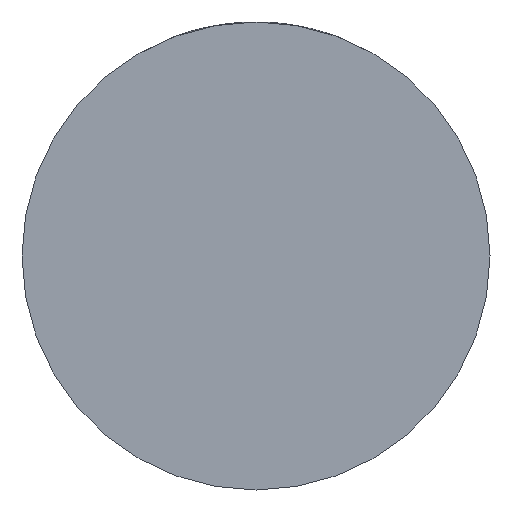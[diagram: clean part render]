
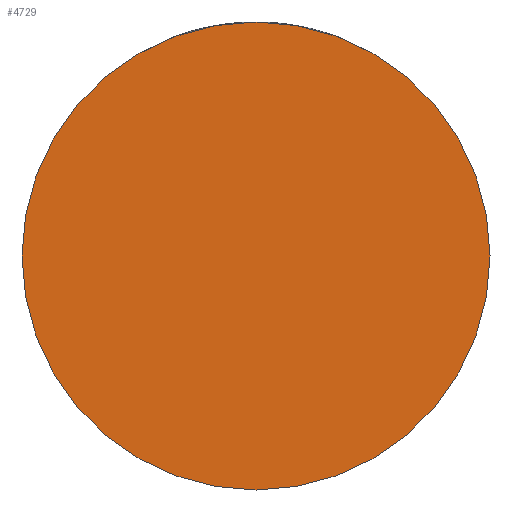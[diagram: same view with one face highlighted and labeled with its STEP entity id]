
A CAD part, front view. The second image highlights one B-rep face of the part: STEP entity #4729.
In plain terms, the highlighted planar face has unit normal (0, -1, 0).
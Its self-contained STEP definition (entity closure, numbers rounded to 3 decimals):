
#17 = ORIENTED_EDGE ( 'NONE', *, *, #4348, .F. ) ;
#409 = AXIS2_PLACEMENT_3D ( 'NONE', #4106, #1136, #1598 ) ;
#798 = CARTESIAN_POINT ( 'NONE',  ( 0., -20., 0. ) ) ;
#1136 = DIRECTION ( 'NONE',  ( 0., 1., 0. ) ) ;
#1198 = CARTESIAN_POINT ( 'NONE',  ( 0., -20., 0. ) ) ;
#1437 = CARTESIAN_POINT ( 'NONE',  ( -27.5, -20., 0. ) ) ;
#1570 = FACE_OUTER_BOUND ( 'NONE', #3090, .T. ) ;
#1598 = DIRECTION ( 'NONE',  ( -1., 0., 0. ) ) ;
#2151 = CIRCLE ( 'NONE', #5092, 27.5 ) ;
#2413 = PLANE ( 'NONE',  #4153 ) ;
#2453 = VERTEX_POINT ( 'NONE', #4557 ) ;
#2711 = VERTEX_POINT ( 'NONE', #1437 ) ;
#2881 = DIRECTION ( 'NONE',  ( 0., 1., 0. ) ) ;
#3090 = EDGE_LOOP ( 'NONE', ( #17, #4841 ) ) ;
#3118 = CIRCLE ( 'NONE', #409, 27.5 ) ;
#3250 = DIRECTION ( 'NONE',  ( -1., 0., 0. ) ) ;
#3613 = DIRECTION ( 'NONE',  ( 1., 0., 0. ) ) ;
#3709 = EDGE_CURVE ( 'NONE', #2453, #2711, #2151, .T. ) ;
#4100 = DIRECTION ( 'NONE',  ( 0., -1., 0. ) ) ;
#4106 = CARTESIAN_POINT ( 'NONE',  ( 0., -20., 0. ) ) ;
#4153 = AXIS2_PLACEMENT_3D ( 'NONE', #798, #4100, #3613 ) ;
#4348 = EDGE_CURVE ( 'NONE', #2711, #2453, #3118, .T. ) ;
#4557 = CARTESIAN_POINT ( 'NONE',  ( 27.5, -20., 0. ) ) ;
#4729 = ADVANCED_FACE ( 'NONE', ( #1570 ), #2413, .T. ) ;
#4841 = ORIENTED_EDGE ( 'NONE', *, *, #3709, .F. ) ;
#5092 = AXIS2_PLACEMENT_3D ( 'NONE', #1198, #2881, #3250 ) ;
